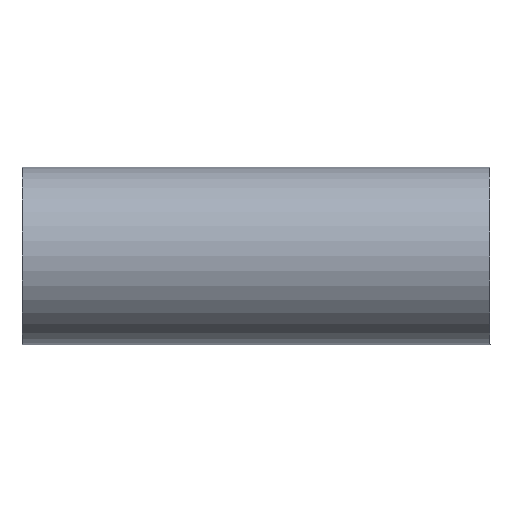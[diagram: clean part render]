
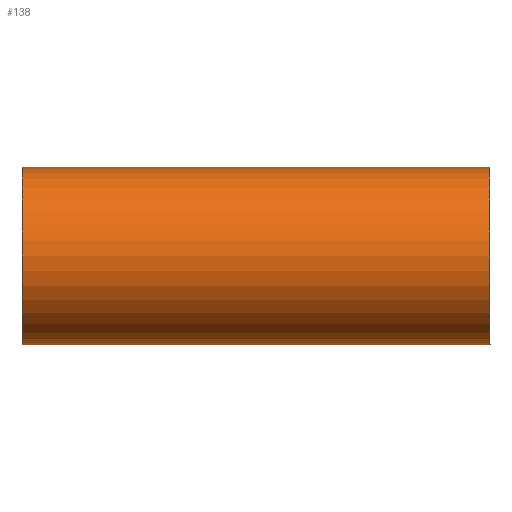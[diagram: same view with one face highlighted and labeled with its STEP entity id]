
A CAD part, front view. The second image highlights one B-rep face of the part: STEP entity #138.
In plain terms, the highlighted cylindrical face has radius 11 mm (diameter 22 mm), a full revolution.
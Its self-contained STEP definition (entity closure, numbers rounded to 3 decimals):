
#64=ORIENTED_EDGE('',*,*,#80,.F.);
#65=ORIENTED_EDGE('',*,*,#81,.T.);
#72=CIRCLE('',#129,11.);
#73=CIRCLE('',#130,11.);
#76=VERTEX_POINT('',#117);
#77=VERTEX_POINT('',#119);
#80=EDGE_CURVE('',#76,#76,#72,.T.);
#81=EDGE_CURVE('',#77,#77,#73,.T.);
#84=EDGE_LOOP('',(#64));
#85=EDGE_LOOP('',(#65));
#92=FACE_BOUND('',#84,.T.);
#93=FACE_BOUND('',#85,.T.);
#100=DIRECTION('',(-1.,0.,0.));
#101=DIRECTION('',(0.,0.,1.));
#102=DIRECTION('',(-1.,0.,0.));
#103=DIRECTION('',(0.,0.,11.));
#104=DIRECTION('',(-1.,0.,0.));
#105=DIRECTION('',(0.,0.,11.));
#116=CARTESIAN_POINT('',(58.,0.,0.));
#117=CARTESIAN_POINT('',(0.,0.,11.));
#118=CARTESIAN_POINT('',(0.,0.,0.));
#119=CARTESIAN_POINT('',(58.,0.,11.));
#120=CARTESIAN_POINT('',(58.,0.,0.));
#128=AXIS2_PLACEMENT_3D('',#116,#100,#101);
#129=AXIS2_PLACEMENT_3D('',#118,#102,#103);
#130=AXIS2_PLACEMENT_3D('',#120,#104,#105);
#136=CYLINDRICAL_SURFACE('',#128,11.);
#138=ADVANCED_FACE('',(#92,#93),#136,.T.);
